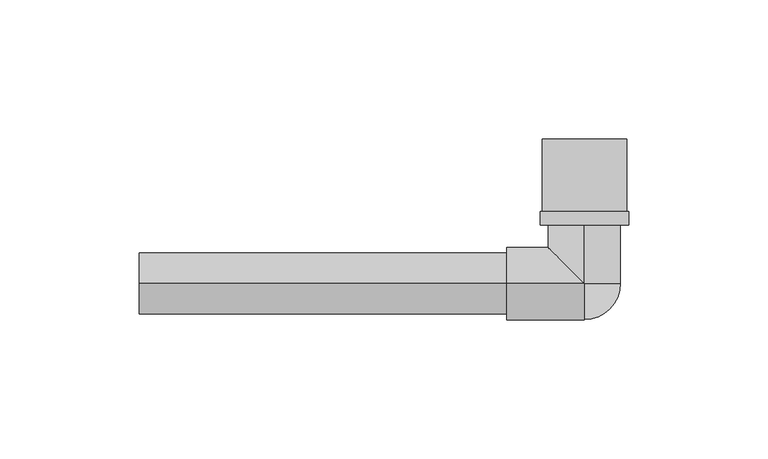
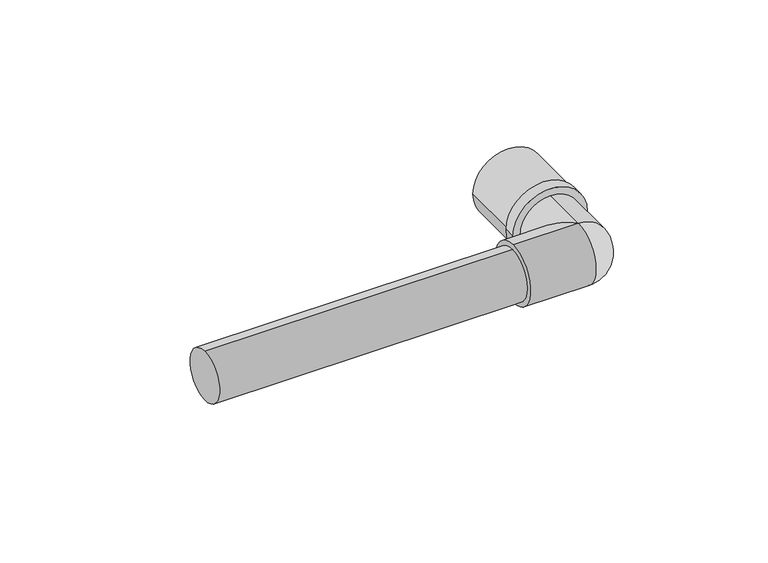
"""IFC4 building model written with IfcOpenShell, lengths in millimetres: pipe fitting geometry, PIF_Tigris_Elbow_Cu_Connector_M5_Wavin : Diameters 16-12 / 16-15 / 20-15 / 20-22 / 25-22."""

from ifc_helpers import new_model, si_unit, point, frame, origin, origin_2d, place, context, project, spatial, circle_curve, ellipse_curve, trimmed, segment, composite_curve, outline, extrude, source, transform, mapped, element, save
from ifc_brep_helpers import plane_surface, cylinder_surface, revolved_surface, advanced_brep


def pipe_fitting_2a3987b6(model_context):
    return source(origin(), model_context, "Body", "SolidModel", [
        extrude(outline(composite_curve([segment(trimmed(circle_curve(origin_2d(), 15.95), [point((0.0, -15.95))], [point((0.0, 15.95))], False, "CARTESIAN"), True, "CONTINUOUS"), segment(trimmed(circle_curve(origin_2d(), 15.95), [point((0.0, 15.95))], [point((0.0, -15.95))], False, "CARTESIAN"), True, "CONTINUOUS")], self_intersect=False)), frame((0.0, 21.0, 0.0), z_axis=(0.0, 1.0, 0.0), x_axis=(0.0, 0.0, 1.0)), (0.0, 0.0, 1.0), 5.0),
        extrude(outline(composite_curve([segment(trimmed(circle_curve(origin_2d(), 15.2), [point((0.0, -15.2))], [point((0.0, 15.2))], False, "CARTESIAN"), True, "CONTINUOUS"), segment(trimmed(circle_curve(origin_2d(), 15.2), [point((0.0, 15.2))], [point((0.0, -15.2))], False, "CARTESIAN"), True, "CONTINUOUS")], self_intersect=False), holes=[composite_curve([segment(trimmed(circle_curve(origin_2d(), 12.7), [point((0.0, -12.7))], [point((0.0, 12.7))], True, "CARTESIAN"), True, "CONTINUOUS"), segment(trimmed(circle_curve(origin_2d(), 12.7), [point((0.0, 12.7))], [point((0.0, -12.7))], True, "CARTESIAN"), True, "CONTINUOUS")], self_intersect=False)]), frame((0.0, 26.0, 0.0), z_axis=(0.0, 1.0, 0.0), x_axis=(0.0, 0.0, 1.0)), (0.0, 0.0, 1.0), 26.0),
        extrude(outline(composite_curve([segment(trimmed(circle_curve(origin_2d(), 10.15), [point((0.0, -10.15))], [point((0.0, 10.15))], False, "CARTESIAN"), True, "CONTINUOUS"), segment(trimmed(circle_curve(origin_2d(), 10.15), [point((0.0, 10.15))], [point((0.0, -10.15))], False, "CARTESIAN"), True, "CONTINUOUS")], self_intersect=False), holes=[composite_curve([segment(trimmed(circle_curve(origin_2d(), 7.6), [point((0.0, -7.6))], [point((0.0, 7.6))], True, "CARTESIAN"), True, "CONTINUOUS"), segment(trimmed(circle_curve(origin_2d(), 7.6), [point((0.0, 7.6))], [point((0.0, -7.6))], True, "CARTESIAN"), True, "CONTINUOUS")], self_intersect=False)]), frame((0.0, 22.0, 0.0), z_axis=(0.0, 1.0, 0.0), x_axis=(0.0, 0.0, 1.0)), (0.0, 0.0, 1.0), 30.0),
        advanced_brep(
        [(0.0, 22.0, -13.0), (0.0, 22.0, 13.0), (0.0, 0.0, 13.0), (0.0, 0.0, -13.0), (-28.0, 0.0, -13.0), (-28.0, 0.0, 13.0)],
        [
            (0, 1, circle_curve(frame((0.0, 22.0, 0.0), z_axis=(0.0, 1.0, 0.0), x_axis=(0.0, 0.0, 1.0)), 13.0)),
            (1, 0, circle_curve(frame((0.0, 22.0, 0.0), z_axis=(0.0, 1.0, 0.0), x_axis=(0.0, 0.0, 1.0)), 13.0)),
            (1, 2),
            (2, 3, circle_curve(frame((0.0, 0.0, 0.0), z_axis=(0.0, 1.0, 0.0), x_axis=(0.0, 0.0, 1.0)), 13.0)),
            (3, 0),
            (3, 2, ellipse_curve(frame((0.0, 0.0, 0.0), z_axis=(0.7071067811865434, 0.7071067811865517, 0.0), x_axis=(0.7071067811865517, -0.7071067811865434, 0.0)), 18.3847763, 13.0)),
            (4, 5, circle_curve(frame((-28.0, 0.0, 0.0), z_axis=(-1.0, 0.0, 0.0), x_axis=(0.0, 0.0, 1.0)), 13.0)),
            (5, 4, circle_curve(frame((-28.0, 0.0, 0.0), z_axis=(-1.0, 0.0, 0.0), x_axis=(0.0, 0.0, 1.0)), 13.0)),
            (4, 3),
            (3, 2, circle_curve(frame((0.0, 0.0, 0.0), z_axis=(-1.0, 0.0, 0.0), x_axis=(0.0, 0.0, 1.0)), 13.0)),
            (2, 5),
        ],
        [
            plane_surface(frame((0.0, 22.0, 13.0), z_axis=(0.0, 1.0, 0.0), x_axis=(1.0, 0.0, 0.0))),
            cylinder_surface(frame((0.0, 22.0, 0.0), z_axis=(0.0, -1.0, 0.0), x_axis=(0.0, 0.0, 1.0)), 13.0),
            plane_surface(frame((-28.0, 0.0, 13.0), z_axis=(-1.0, 0.0, 0.0), x_axis=(0.0, 1.0, 0.0))),
            cylinder_surface(frame((0.0, 0.0, 0.0), z_axis=(-1.0, 0.0, 0.0), x_axis=(0.0, 0.0, 1.0)), 13.0),
            revolved_surface(trimmed(ellipse_curve(frame((0.0, 0.0, 0.0), z_axis=(1.0, 0.0, 0.0), x_axis=(0.0, 1.0, 0.0)), 13.0, 13.0), [point((0.0, 0.0, 13.0))], [point((0.0, 0.0, -13.0))], True, "CARTESIAN"), (0.0, 0.0, 2699.4742198), (0.0, 0.0, -1.0)),
        ],
        [
            (0, [[1, 2]]),
            (1, [[-2, 3, 4, 5]]),
            (1, [[-1, -5, 6, -3]]),
            (2, [[7, 8]]),
            (3, [[-7, 9, 10, 11]]),
            (3, [[-8, -11, -6, -9]]),
            (4, [[-4, -10]]),
        ],
    ),
        extrude(outline(composite_curve([segment(trimmed(circle_curve(origin_2d(), 11.0), [point((0.0, -11.0))], [point((0.0, 11.0))], False, "CARTESIAN"), True, "CONTINUOUS"), segment(trimmed(circle_curve(origin_2d(), 11.0), [point((0.0, 11.0))], [point((0.0, -11.0))], False, "CARTESIAN"), True, "CONTINUOUS")], self_intersect=False)), frame((-160.0, 0.0, 0.0), z_axis=(1.0, 0.0, 0.0), x_axis=(0.0, 1.0, 0.0)), (0.0, 0.0, 1.0), 132.0),
    ])


if __name__ == "__main__":
    model = new_model("IFC4")
    model_context = context("Model", 3, world=origin())
    ifc_project = project(units=[si_unit("LENGTHUNIT", "METRE", prefix="MILLI")], contexts=[model_context])
    site = spatial("IfcSite", under=ifc_project)
    building = spatial("IfcBuilding", under=site)
    placement = place(None, origin())
    pipe_fitting_shape = pipe_fitting_2a3987b6(model_context)
    element("IfcPipeFitting", 1, ObjectType="PIF_Tigris_Elbow_Cu_Connector_M5_Wavin : Diameters 16-12 / 16-15 / 20-15 / 20-22 / 25-22", at=placement, inside=building, context=model_context, shape_type="MappedRepresentation", body=[
        mapped(pipe_fitting_shape, transform((0.0, 0.0, 0.0), x_axis=(1.0, 0.0, 0.0), y_axis=(0.0, 1.0, 0.0), z_axis=(0.0, 0.0, 1.0))),
    ])
    save(model, "model.ifc")
